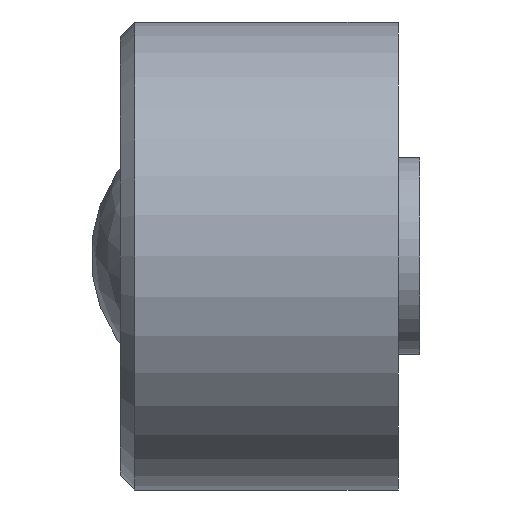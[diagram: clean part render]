
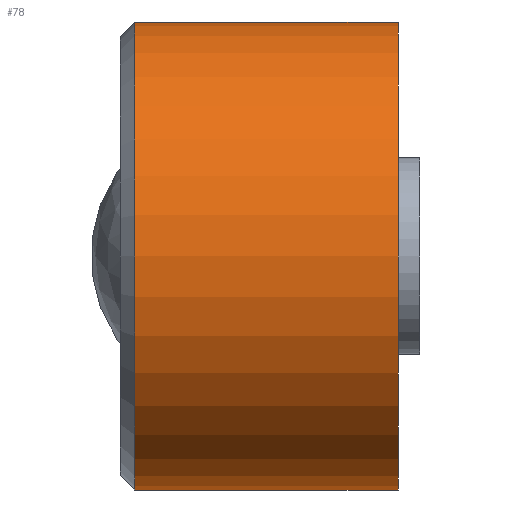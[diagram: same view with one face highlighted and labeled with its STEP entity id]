
A CAD part, left-side view. The second image highlights one B-rep face of the part: STEP entity #78.
In plain terms, the highlighted cylindrical face has radius 16 mm (diameter 32 mm), a full revolution.
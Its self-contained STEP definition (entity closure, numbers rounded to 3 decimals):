
#78 = ADVANCED_FACE( '', ( #99, #100, #101 ), #102, .T. );
#99 = FACE_OUTER_BOUND( '', #141, .T. );
#100 = FACE_BOUND( '', #142, .T. );
#101 = FACE_OUTER_BOUND( '', #143, .T. );
#102 = CYLINDRICAL_SURFACE( '', #144, 16. );
#141 = EDGE_LOOP( '', ( #189 ) );
#142 = EDGE_LOOP( '', ( #190 ) );
#143 = EDGE_LOOP( '', ( #191 ) );
#144 = AXIS2_PLACEMENT_3D( '', #192, #193, #194 );
#189 = ORIENTED_EDGE( '', *, *, #249, .F. );
#190 = ORIENTED_EDGE( '', *, *, #250, .F. );
#191 = ORIENTED_EDGE( '', *, *, #251, .T. );
#192 = CARTESIAN_POINT( '', ( 0., 0., 0. ) );
#193 = DIRECTION( '', ( 0., 1., 0. ) );
#194 = DIRECTION( '', ( 0., 0., -1. ) );
#249 = EDGE_CURVE( '', #267, #267, #268, .T. );
#250 = EDGE_CURVE( '', #269, #269, #270, .T. );
#251 = EDGE_CURVE( '', #271, #271, #272, .T. );
#267 = VERTEX_POINT( '', #293 );
#268 = CIRCLE( '', #294, 16. );
#269 = VERTEX_POINT( '', #295 );
#270 = B_SPLINE_CURVE_WITH_KNOTS( '', 3, ( #296, #297, #298, #299, #300, #301, #302, #303, #304, #305, #306, #307, #308, #309, #310, #311, #312, #313, #314, #315, #316, #317, #318, #319, #320, #321, #322, #323, #324, #325, #326, #327, #328, #329, #330, #331, #332, #333, #334, #335, #336, #337, #338, #339, #340, #341, #342, #343, #344, #345, #346, #347, #348, #349, #350, #351, #352, #353, #354, #355, #356, #357, #358, #359, #360, #361 ), .UNSPECIFIED., .T., .F., ( 2, 2, 2, 2, 2, 2, 2, 2, 2, 2, 2, 2, 2, 2, 2, 2, 2, 2, 2, 2, 2, 2, 2, 2, 2, 2, 2, 2, 2, 2, 2, 2, 2, 2, 2 ), ( -0.001, 0., 0.001, 0.002, 0.002, 0.003, 0.004, 0.005, 0.005, 0.006, 0.007, 0.008, 0.009, 0.009, 0.01, 0.011, 0.012, 0.013, 0.013, 0.014, 0.015, 0.016, 0.016, 0.017, 0.018, 0.019, 0.02, 0.02, 0.021, 0.022, 0.023, 0.024, 0.024, 0.025, 0.026 ), .UNSPECIFIED. );
#271 = VERTEX_POINT( '', #362 );
#272 = CIRCLE( '', #363, 16. );
#293 = CARTESIAN_POINT( '', ( 0., 1.5, -16. ) );
#294 = AXIS2_PLACEMENT_3D( '', #388, #389, #390 );
#295 = CARTESIAN_POINT( '', ( 15.492, 12.5, 4. ) );
#296 = CARTESIAN_POINT( '', ( 15.492, 12.765, 4. ) );
#297 = CARTESIAN_POINT( '', ( 15.492, 12.235, 4. ) );
#298 = CARTESIAN_POINT( '', ( 15.499, 11.974, 3.974 ) );
#299 = CARTESIAN_POINT( '', ( 15.525, 11.461, 3.872 ) );
#300 = CARTESIAN_POINT( '', ( 15.544, 11.207, 3.794 ) );
#301 = CARTESIAN_POINT( '', ( 15.592, 10.723, 3.593 ) );
#302 = CARTESIAN_POINT( '', ( 15.62, 10.493, 3.47 ) );
#303 = CARTESIAN_POINT( '', ( 15.682, 10.06, 3.18 ) );
#304 = CARTESIAN_POINT( '', ( 15.715, 9.855, 3.012 ) );
#305 = CARTESIAN_POINT( '', ( 15.781, 9.488, 2.644 ) );
#306 = CARTESIAN_POINT( '', ( 15.814, 9.322, 2.444 ) );
#307 = CARTESIAN_POINT( '', ( 15.875, 9.03, 2.007 ) );
#308 = CARTESIAN_POINT( '', ( 15.903, 8.906, 1.776 ) );
#309 = CARTESIAN_POINT( '', ( 15.949, 8.706, 1.295 ) );
#310 = CARTESIAN_POINT( '', ( 15.968, 8.629, 1.042 ) );
#311 = CARTESIAN_POINT( '', ( 15.993, 8.526, 0.525 ) );
#312 = CARTESIAN_POINT( '', ( 16., 8.5, 0.265 ) );
#313 = CARTESIAN_POINT( '', ( 16., 8.5, -0.26 ) );
#314 = CARTESIAN_POINT( '', ( 15.993, 8.526, -0.526 ) );
#315 = CARTESIAN_POINT( '', ( 15.968, 8.629, -1.04 ) );
#316 = CARTESIAN_POINT( '', ( 15.95, 8.704, -1.29 ) );
#317 = CARTESIAN_POINT( '', ( 15.903, 8.906, -1.775 ) );
#318 = CARTESIAN_POINT( '', ( 15.875, 9.031, -2.008 ) );
#319 = CARTESIAN_POINT( '', ( 15.814, 9.32, -2.44 ) );
#320 = CARTESIAN_POINT( '', ( 15.781, 9.486, -2.643 ) );
#321 = CARTESIAN_POINT( '', ( 15.715, 9.857, -3.014 ) );
#322 = CARTESIAN_POINT( '', ( 15.682, 10.058, -3.178 ) );
#323 = CARTESIAN_POINT( '', ( 15.62, 10.49, -3.468 ) );
#324 = CARTESIAN_POINT( '', ( 15.592, 10.724, -3.594 ) );
#325 = CARTESIAN_POINT( '', ( 15.544, 11.207, -3.794 ) );
#326 = CARTESIAN_POINT( '', ( 15.525, 11.456, -3.87 ) );
#327 = CARTESIAN_POINT( '', ( 15.499, 11.971, -3.974 ) );
#328 = CARTESIAN_POINT( '', ( 15.492, 12.237, -4. ) );
#329 = CARTESIAN_POINT( '', ( 15.492, 12.76, -4. ) );
#330 = CARTESIAN_POINT( '', ( 15.499, 13.021, -3.975 ) );
#331 = CARTESIAN_POINT( '', ( 15.525, 13.541, -3.871 ) );
#332 = CARTESIAN_POINT( '', ( 15.544, 13.791, -3.795 ) );
#333 = CARTESIAN_POINT( '', ( 15.591, 14.273, -3.595 ) );
#334 = CARTESIAN_POINT( '', ( 15.62, 14.507, -3.47 ) );
#335 = CARTESIAN_POINT( '', ( 15.682, 14.941, -3.18 ) );
#336 = CARTESIAN_POINT( '', ( 15.714, 15.142, -3.015 ) );
#337 = CARTESIAN_POINT( '', ( 15.781, 15.511, -2.646 ) );
#338 = CARTESIAN_POINT( '', ( 15.814, 15.679, -2.442 ) );
#339 = CARTESIAN_POINT( '', ( 15.875, 15.968, -2.01 ) );
#340 = CARTESIAN_POINT( '', ( 15.903, 16.092, -1.78 ) );
#341 = CARTESIAN_POINT( '', ( 15.949, 16.294, -1.294 ) );
#342 = CARTESIAN_POINT( '', ( 15.968, 16.371, -1.042 ) );
#343 = CARTESIAN_POINT( '', ( 15.993, 16.473, -0.53 ) );
#344 = CARTESIAN_POINT( '', ( 16., 16.5, -0.266 ) );
#345 = CARTESIAN_POINT( '', ( 16., 16.5, 0.262 ) );
#346 = CARTESIAN_POINT( '', ( 15.994, 16.474, 0.522 ) );
#347 = CARTESIAN_POINT( '', ( 15.968, 16.372, 1.036 ) );
#348 = CARTESIAN_POINT( '', ( 15.95, 16.295, 1.291 ) );
#349 = CARTESIAN_POINT( '', ( 15.903, 16.095, 1.774 ) );
#350 = CARTESIAN_POINT( '', ( 15.876, 15.972, 2.004 ) );
#351 = CARTESIAN_POINT( '', ( 15.814, 15.68, 2.44 ) );
#352 = CARTESIAN_POINT( '', ( 15.781, 15.514, 2.643 ) );
#353 = CARTESIAN_POINT( '', ( 15.715, 15.147, 3.01 ) );
#354 = CARTESIAN_POINT( '', ( 15.682, 14.944, 3.177 ) );
#355 = CARTESIAN_POINT( '', ( 15.62, 14.508, 3.469 ) );
#356 = CARTESIAN_POINT( '', ( 15.592, 14.279, 3.592 ) );
#357 = CARTESIAN_POINT( '', ( 15.544, 13.797, 3.793 ) );
#358 = CARTESIAN_POINT( '', ( 15.525, 13.542, 3.871 ) );
#359 = CARTESIAN_POINT( '', ( 15.499, 13.027, 3.974 ) );
#360 = CARTESIAN_POINT( '', ( 15.492, 12.765, 4. ) );
#361 = CARTESIAN_POINT( '', ( 15.492, 12.235, 4. ) );
#362 = CARTESIAN_POINT( '', ( 0., 19.5, -16. ) );
#363 = AXIS2_PLACEMENT_3D( '', #391, #392, #393 );
#388 = CARTESIAN_POINT( '', ( 0., 1.5, 0. ) );
#389 = DIRECTION( '', ( 0., -1., 0. ) );
#390 = DIRECTION( '', ( 0., 0., -1. ) );
#391 = CARTESIAN_POINT( '', ( 0., 19.5, 0. ) );
#392 = DIRECTION( '', ( 0., -1., 0. ) );
#393 = DIRECTION( '', ( 0., 0., -1. ) );
